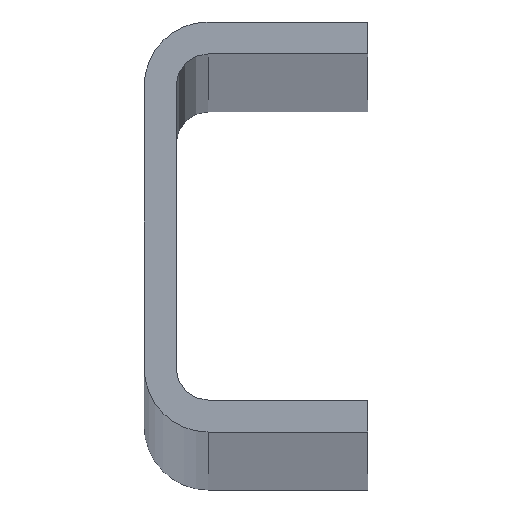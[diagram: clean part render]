
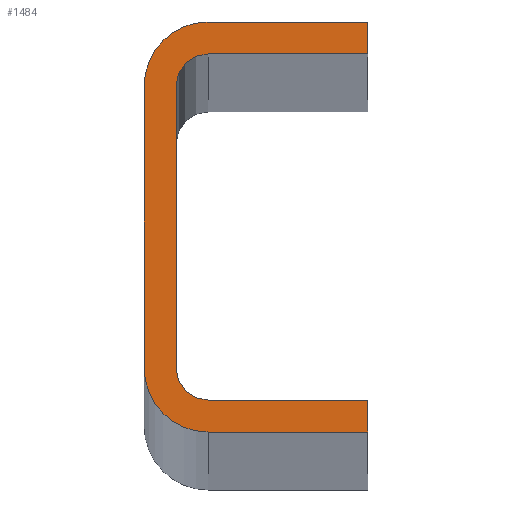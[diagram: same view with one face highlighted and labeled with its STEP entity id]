
A CAD part, top view. The second image highlights one B-rep face of the part: STEP entity #1484.
In plain terms, the highlighted planar face has unit normal (0, 0, 1).
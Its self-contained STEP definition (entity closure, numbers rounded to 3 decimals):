
#33 = DIRECTION ( 'NONE',  ( -1., 0., 0. ) ) ;
#291 = DIRECTION ( 'NONE',  ( 0., 1., 0. ) ) ;
#299 = DIRECTION ( 'NONE',  ( 0., 0., 1. ) ) ;
#396 = ORIENTED_EDGE ( 'NONE', *, *, #6228, .T. ) ;
#407 = VERTEX_POINT ( 'NONE', #2777 ) ;
#539 = CIRCLE ( 'NONE', #4809, 3. ) ;
#744 = EDGE_CURVE ( 'NONE', #6139, #6231, #4927, .T. ) ;
#919 = EDGE_CURVE ( 'NONE', #7029, #2213, #6138, .T. ) ;
#920 = LINE ( 'NONE', #3704, #2330 ) ;
#932 = VECTOR ( 'NONE', #6363, 1000. ) ;
#1029 = EDGE_CURVE ( 'NONE', #407, #7029, #1915, .T. ) ;
#1064 = AXIS2_PLACEMENT_3D ( 'NONE', #2383, #2313, #4132 ) ;
#1271 = ORIENTED_EDGE ( 'NONE', *, *, #4829, .T. ) ;
#1274 = CARTESIAN_POINT ( 'NONE',  ( 21., -16.25, 0. ) ) ;
#1445 = EDGE_CURVE ( 'NONE', #4530, #2555, #3497, .T. ) ;
#1461 = CARTESIAN_POINT ( 'NONE',  ( 6., -19.25, 0. ) ) ;
#1484 = ADVANCED_FACE ( 'NONE', ( #2416 ), #5724, .F. ) ;
#1641 = CARTESIAN_POINT ( 'NONE',  ( 21., -19.25, 0. ) ) ;
#1915 = LINE ( 'NONE', #2988, #932 ) ;
#1926 = ORIENTED_EDGE ( 'NONE', *, *, #6424, .T. ) ;
#1992 = EDGE_CURVE ( 'NONE', #7004, #4530, #6520, .T. ) ;
#2042 = EDGE_LOOP ( 'NONE', ( #3164, #6765, #6262, #5402, #6519, #5410, #4908, #396, #2622, #3777, #1926, #1271 ) ) ;
#2086 = CIRCLE ( 'NONE', #3742, 6. ) ;
#2144 = CARTESIAN_POINT ( 'NONE',  ( 3., -13.25, 0. ) ) ;
#2156 = CARTESIAN_POINT ( 'NONE',  ( 0., 0., 0. ) ) ;
#2173 = CARTESIAN_POINT ( 'NONE',  ( 6., 16.25, 0. ) ) ;
#2213 = VERTEX_POINT ( 'NONE', #3019 ) ;
#2259 = AXIS2_PLACEMENT_3D ( 'NONE', #7144, #4818, #7072 ) ;
#2313 = DIRECTION ( 'NONE',  ( 0., 0., -1. ) ) ;
#2330 = VECTOR ( 'NONE', #291, 1000. ) ;
#2383 = CARTESIAN_POINT ( 'NONE',  ( 6., -13.25, 0. ) ) ;
#2416 = FACE_OUTER_BOUND ( 'NONE', #2042, .T. ) ;
#2418 = VECTOR ( 'NONE', #4173, 1000. ) ;
#2529 = CARTESIAN_POINT ( 'NONE',  ( 6., 13.25, 0. ) ) ;
#2555 = VERTEX_POINT ( 'NONE', #1641 ) ;
#2622 = ORIENTED_EDGE ( 'NONE', *, *, #1992, .T. ) ;
#2655 = AXIS2_PLACEMENT_3D ( 'NONE', #2720, #3316, #7280 ) ;
#2720 = CARTESIAN_POINT ( 'NONE',  ( 6., -13.25, 0. ) ) ;
#2777 = CARTESIAN_POINT ( 'NONE',  ( 21., 16.25, 0. ) ) ;
#2789 = LINE ( 'NONE', #5059, #7283 ) ;
#2824 = VERTEX_POINT ( 'NONE', #7210 ) ;
#2965 = DIRECTION ( 'NONE',  ( 0., -1., 0. ) ) ;
#2988 = CARTESIAN_POINT ( 'NONE',  ( 21., 16.25, 0. ) ) ;
#2996 = CARTESIAN_POINT ( 'NONE',  ( 0., -13.25, 0. ) ) ;
#3019 = CARTESIAN_POINT ( 'NONE',  ( 6., 19.25, 0. ) ) ;
#3089 = LINE ( 'NONE', #1274, #2418 ) ;
#3154 = DIRECTION ( 'NONE',  ( 1., 0., 0. ) ) ;
#3164 = ORIENTED_EDGE ( 'NONE', *, *, #4535, .T. ) ;
#3316 = DIRECTION ( 'NONE',  ( 0., 0., -1. ) ) ;
#3497 = LINE ( 'NONE', #4688, #5567 ) ;
#3704 = CARTESIAN_POINT ( 'NONE',  ( 21., -19.25, 0. ) ) ;
#3742 = AXIS2_PLACEMENT_3D ( 'NONE', #3824, #299, #3154 ) ;
#3776 = VECTOR ( 'NONE', #33, 1000. ) ;
#3777 = ORIENTED_EDGE ( 'NONE', *, *, #1445, .T. ) ;
#3824 = CARTESIAN_POINT ( 'NONE',  ( 6., 13.25, 0. ) ) ;
#4087 = CARTESIAN_POINT ( 'NONE',  ( 6., -16.25, 0. ) ) ;
#4132 = DIRECTION ( 'NONE',  ( -1., 0., 0. ) ) ;
#4173 = DIRECTION ( 'NONE',  ( -1., 0., 0. ) ) ;
#4335 = VERTEX_POINT ( 'NONE', #4557 ) ;
#4388 = DIRECTION ( 'NONE',  ( -1., 0., 0. ) ) ;
#4530 = VERTEX_POINT ( 'NONE', #1461 ) ;
#4535 = EDGE_CURVE ( 'NONE', #6302, #6139, #4679, .T. ) ;
#4557 = CARTESIAN_POINT ( 'NONE',  ( 21., -16.25, 0. ) ) ;
#4613 = VERTEX_POINT ( 'NONE', #2173 ) ;
#4652 = DIRECTION ( 'NONE',  ( 1., 0., 0. ) ) ;
#4679 = CIRCLE ( 'NONE', #2655, 3. ) ;
#4688 = CARTESIAN_POINT ( 'NONE',  ( 6., -19.25, 0. ) ) ;
#4809 = AXIS2_PLACEMENT_3D ( 'NONE', #2529, #7126, #4388 ) ;
#4818 = DIRECTION ( 'NONE',  ( 0., 0., 1. ) ) ;
#4829 = EDGE_CURVE ( 'NONE', #4335, #6302, #3089, .T. ) ;
#4908 = ORIENTED_EDGE ( 'NONE', *, *, #5947, .T. ) ;
#4927 = LINE ( 'NONE', #2144, #6613 ) ;
#5059 = CARTESIAN_POINT ( 'NONE',  ( 6., 16.25, 0. ) ) ;
#5402 = ORIENTED_EDGE ( 'NONE', *, *, #5703, .T. ) ;
#5410 = ORIENTED_EDGE ( 'NONE', *, *, #919, .T. ) ;
#5508 = EDGE_CURVE ( 'NONE', #6231, #4613, #539, .T. ) ;
#5567 = VECTOR ( 'NONE', #4652, 1000. ) ;
#5641 = CARTESIAN_POINT ( 'NONE',  ( 3., -13.25, 0. ) ) ;
#5667 = CARTESIAN_POINT ( 'NONE',  ( 21., 19.25, 0. ) ) ;
#5703 = EDGE_CURVE ( 'NONE', #4613, #407, #2789, .T. ) ;
#5724 = PLANE ( 'NONE',  #1064 ) ;
#5947 = EDGE_CURVE ( 'NONE', #2213, #2824, #2086, .T. ) ;
#5990 = CARTESIAN_POINT ( 'NONE',  ( 21., 19.25, 0. ) ) ;
#6138 = LINE ( 'NONE', #5667, #3776 ) ;
#6139 = VERTEX_POINT ( 'NONE', #5641 ) ;
#6200 = DIRECTION ( 'NONE',  ( 1., 0., 0. ) ) ;
#6228 = EDGE_CURVE ( 'NONE', #2824, #7004, #7225, .T. ) ;
#6231 = VERTEX_POINT ( 'NONE', #6447 ) ;
#6262 = ORIENTED_EDGE ( 'NONE', *, *, #5508, .T. ) ;
#6302 = VERTEX_POINT ( 'NONE', #4087 ) ;
#6363 = DIRECTION ( 'NONE',  ( 0., 1., 0. ) ) ;
#6424 = EDGE_CURVE ( 'NONE', #2555, #4335, #920, .T. ) ;
#6447 = CARTESIAN_POINT ( 'NONE',  ( 3., 13.25, 0. ) ) ;
#6519 = ORIENTED_EDGE ( 'NONE', *, *, #1029, .T. ) ;
#6520 = CIRCLE ( 'NONE', #2259, 6. ) ;
#6580 = VECTOR ( 'NONE', #2965, 1000. ) ;
#6613 = VECTOR ( 'NONE', #7179, 1000. ) ;
#6765 = ORIENTED_EDGE ( 'NONE', *, *, #744, .T. ) ;
#7004 = VERTEX_POINT ( 'NONE', #2996 ) ;
#7029 = VERTEX_POINT ( 'NONE', #5990 ) ;
#7072 = DIRECTION ( 'NONE',  ( 1., 0., 0. ) ) ;
#7126 = DIRECTION ( 'NONE',  ( 0., 0., -1. ) ) ;
#7144 = CARTESIAN_POINT ( 'NONE',  ( 6., -13.25, 0. ) ) ;
#7179 = DIRECTION ( 'NONE',  ( 0., 1., 0. ) ) ;
#7210 = CARTESIAN_POINT ( 'NONE',  ( 0., 13.25, 0. ) ) ;
#7225 = LINE ( 'NONE', #2156, #6580 ) ;
#7280 = DIRECTION ( 'NONE',  ( -1., 0., 0. ) ) ;
#7283 = VECTOR ( 'NONE', #6200, 1000. ) ;
